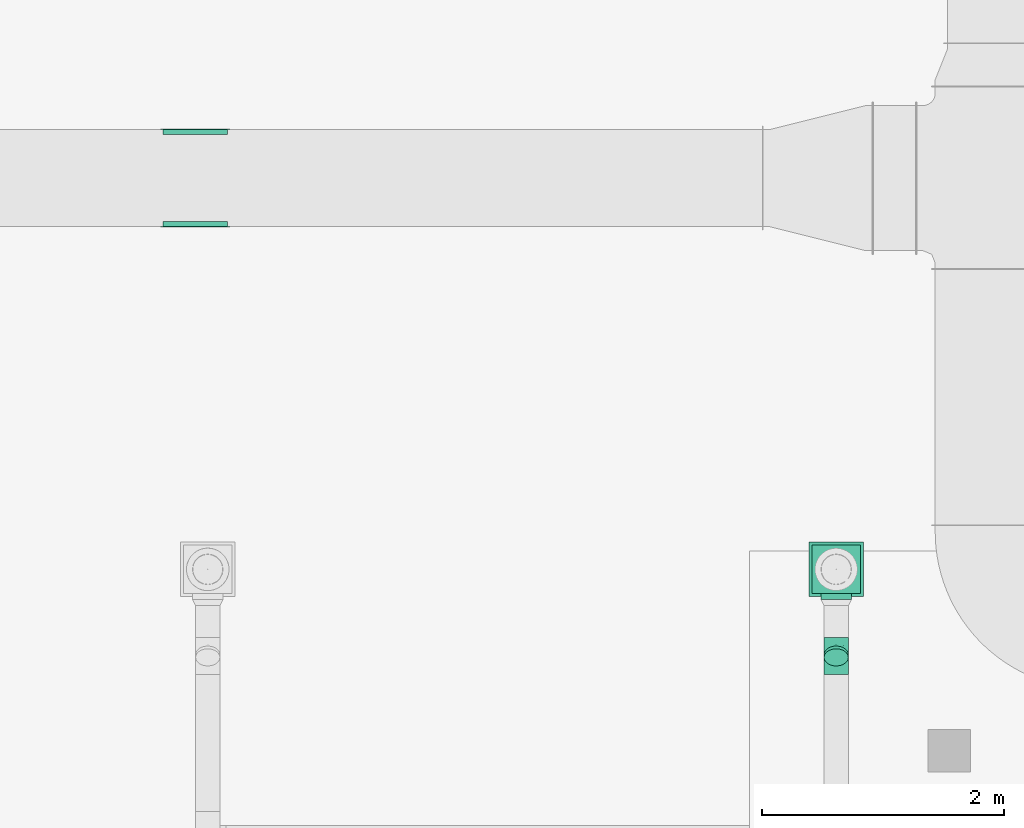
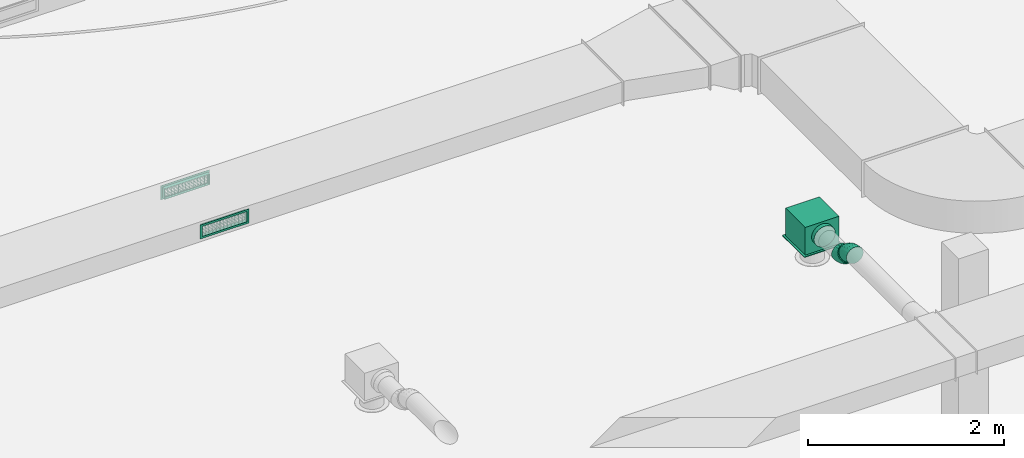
# One storey, part 264 of 302: 3 flow terminals, 2 flow fittings, 1 flow segment.
"""IFC2X3 building model written with IfcOpenShell, lengths in metres."""

from ifc_helpers import new_model, entity, si_unit, converted_unit, derived_unit, direction, frame, frame_2d, origin, origin_2d_with_axis, place, context, subcontext, project, spatial, polyline, circle_curve, parameter, trimmed, segment, composite_curve, rectangle, circle, outline, extrude, faceted_brep, source, transform, mapped, material, material_list, type_object, type_shapes, element, save


model = new_model("IFC2X3")

# Units and contexts
model_context = context("Model", 3, precision=1e-05, world=origin(), true_north=direction((6.12303176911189e-17, 1.0)))
body_context = subcontext(model_context, "Body", "Model", "MODEL_VIEW")
ifc_project = project(units=[si_unit("LENGTHUNIT", "METRE"), si_unit("AREAUNIT", "SQUARE_METRE"), si_unit("VOLUMEUNIT", "CUBIC_METRE"), converted_unit("PLANEANGLEUNIT", "DEGREE", entity("IfcRatioMeasure", 0.0174532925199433), si_unit("PLANEANGLEUNIT", "RADIAN"), dimensions=[0, 0, 0, 0, 0, 0, 0]), si_unit("MASSUNIT", "GRAM", prefix="KILO"), derived_unit("MASSDENSITYUNIT", [(si_unit("MASSUNIT", "GRAM", prefix="KILO"), 1), (si_unit("LENGTHUNIT", "METRE"), -3)]), derived_unit("MOMENTOFINERTIAUNIT", [(si_unit("LENGTHUNIT", "METRE"), 4)]), si_unit("TIMEUNIT", "SECOND"), si_unit("FREQUENCYUNIT", "HERTZ"), si_unit("THERMODYNAMICTEMPERATUREUNIT", "DEGREE_CELSIUS"), derived_unit("THERMALTRANSMITTANCEUNIT", [(si_unit("MASSUNIT", "GRAM", prefix="KILO"), 1), (si_unit("THERMODYNAMICTEMPERATUREUNIT", "KELVIN"), -1), (si_unit("TIMEUNIT", "SECOND"), -3)]), derived_unit("VOLUMETRICFLOWRATEUNIT", [(si_unit("LENGTHUNIT", "METRE"), 3), (si_unit("TIMEUNIT", "SECOND"), -1)]), si_unit("ELECTRICCURRENTUNIT", "AMPERE"), si_unit("ELECTRICVOLTAGEUNIT", "VOLT"), si_unit("POWERUNIT", "WATT"), si_unit("FORCEUNIT", "NEWTON", prefix="KILO"), si_unit("ILLUMINANCEUNIT", "LUX"), si_unit("LUMINOUSFLUXUNIT", "LUMEN"), si_unit("LUMINOUSINTENSITYUNIT", "CANDELA"), derived_unit("USERDEFINED", [(si_unit("MASSUNIT", "GRAM", prefix="KILO"), -1), (si_unit("LENGTHUNIT", "METRE"), -2), (si_unit("TIMEUNIT", "SECOND"), 3), (si_unit("LUMINOUSFLUXUNIT", "LUMEN"), 1)]), derived_unit("LINEARVELOCITYUNIT", [(si_unit("LENGTHUNIT", "METRE"), 1), (si_unit("TIMEUNIT", "SECOND"), -1)]), si_unit("PRESSUREUNIT", "PASCAL"), derived_unit("USERDEFINED", [(si_unit("LENGTHUNIT", "METRE"), -2), (si_unit("MASSUNIT", "GRAM", prefix="KILO"), 1), (si_unit("TIMEUNIT", "SECOND"), -2)]), derived_unit("LINEARFORCEUNIT", [(si_unit("MASSUNIT", "GRAM", prefix="KILO"), 1), (si_unit("LENGTHUNIT", "METRE"), 1), (si_unit("TIMEUNIT", "SECOND"), -2), (si_unit("LENGTHUNIT", "METRE"), -1)]), derived_unit("PLANARFORCEUNIT", [(si_unit("MASSUNIT", "GRAM", prefix="KILO"), 1), (si_unit("LENGTHUNIT", "METRE"), 1), (si_unit("TIMEUNIT", "SECOND"), -2), (si_unit("LENGTHUNIT", "METRE"), -2)])], contexts=[model_context])

# Site, building, storey
site_placement = place(None, origin())
site = spatial("IfcSite", under=ifc_project, at=site_placement, Name="Default", CompositionType="ELEMENT")
building_placement = place(site_placement, origin())
building = spatial("IfcBuilding", under=site, at=building_placement, CompositionType="ELEMENT")
storey_placement = place(building_placement, frame((0.0, 0.0, -1.3)))
storey = spatial("IfcBuildingStorey", under=building, at=storey_placement, Name="00_EG", CompositionType="ELEMENT", Elevation=-1.3)

# Flow segment
duct_segment_type = type_object("IfcDuctSegmentType", Name="Rund:STR_Segment_RND_GS_EA", PredefinedType="NOTDEFINED")
flow_segment_placement = place(storey_placement, origin())
element("IfcFlowSegment", 1, at=flow_segment_placement, inside=storey, type_object=duct_segment_type, Name="Rund:STR_Segment_RND_GS_EA", ObjectType="Rund:STR_Segment_RND_GS_EA", context=body_context, shape_type="SweptSolid", body=[
    extrude(circle(Radius=0.1, at=frame_2d((3.46517481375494e-14, -4.59428346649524e-15), x_axis=(1.0, 0.0))), frame((-247.869417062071, 24.218366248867, 5.06642126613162), z_axis=(0.0, 0.707106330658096, -0.707107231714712), x_axis=(-1.0, 0.0, 0.0)), (0.0, 0.0, 1.0), 0.0323041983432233),
])

# Flow terminal
ifc_material = material(Name="<Unnamed>")
ifc_material_list_1 = material_list([ifc_material, ifc_material, ifc_material])
air_terminal_type_1 = type_object("IfcAirTerminalType", Name="Drallauslass Zuluft seitlich:600 quadratisch", PredefinedType="NOTDEFINED", material=ifc_material_list_1)
shared_shape_1 = source(origin(), body_context, "Body", "SweptSolid", [
    extrude(rectangle(XDim=0.449999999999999, YDim=0.450000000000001, at=origin_2d_with_axis()), frame((0.0, 0.0, 2.692), z_axis=(0.0, 0.0, 1.0), x_axis=(-1.0, 0.0, 0.0)), (0.0, 0.0, 1.0), 0.00800000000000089),
    extrude(circle(Radius=0.125, at=frame_2d((1.22275294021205e-18, 0.0), x_axis=(1.0, 0.0))), frame((-0.25, 0.0, 2.89500000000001), z_axis=(1.0, 0.0, 0.0), x_axis=(0.0, 1.0, 0.0)), (0.0, 0.0, 1.0), 0.0499999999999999),
    extrude(rectangle(XDim=0.399999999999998, YDim=0.4, at=origin_2d_with_axis()), frame((0.0, 0.0, 2.7), z_axis=(0.0, 0.0, 1.0), x_axis=(-1.0, 0.0, 0.0)), (0.0, 0.0, 1.0), 0.345000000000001),
])
type_shapes(air_terminal_type_1, [shared_shape_1])
flow_terminal_placement = place(storey_placement, frame((-247.869417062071, 24.9455446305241, 2.08999999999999), z_axis=(0.0, 0.0, 1.0), x_axis=(0.0, 1.0, 0.0)))
element("IfcFlowTerminal", 2, at=flow_terminal_placement, inside=storey, type_object=air_terminal_type_1, material=ifc_material, Name="Drallauslass Zuluft seitlich:600 quadratisch", ObjectType="Drallauslass Zuluft seitlich:600 quadratisch", context=body_context, shape_type="MappedRepresentation", body=[
    mapped(shared_shape_1, transform((0.0, 0.0, 0.0), scale=1.0)),
])

# Flow fittings
duct_fitting_type = type_object("IfcDuctFittingType", Name="STR_RND_Elbow:STR_Elbow_RND_GS_EA", PredefinedType="NOTDEFINED", material=ifc_material)
shared_shape_2 = source(origin(), body_context, "Body", "Brep", [
    faceted_brep([(-0.0438246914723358, 0.00384295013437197, 0.0999999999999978), (-0.0498533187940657, 0.0341508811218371, 0.0951056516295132), (-0.0828427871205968, 0.0309016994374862, 0.0951056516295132), (-0.0828427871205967, 0.0, 0.0999999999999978), (-0.0552918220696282, 0.061492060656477, 0.0809016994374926), (-0.0828427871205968, 0.0587785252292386, 0.0809016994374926), (-0.0596078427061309, 0.0831901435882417, 0.0587785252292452), (-0.0828427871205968, 0.0809016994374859, 0.0587785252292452), (-0.0623788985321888, 0.097121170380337, 0.0309016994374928), (-0.0828427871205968, 0.0951056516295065, 0.0309016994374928), (-0.0633337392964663, 0.101921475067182, 0.0), (-0.0828427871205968, 0.0999999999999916, 0.0), (-0.0623788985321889, 0.0971211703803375, -0.030901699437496), (-0.0828427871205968, 0.095105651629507, -0.030901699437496), (-0.059607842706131, 0.0831901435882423, -0.0587785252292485), (-0.0828427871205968, 0.0809016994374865, -0.0587785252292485), (-0.0552918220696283, 0.0614920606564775, -0.0809016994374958), (-0.0828427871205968, 0.0587785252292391, -0.0809016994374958), (-0.0498533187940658, 0.0341508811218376, -0.0951056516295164), (-0.0828427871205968, 0.0309016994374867, -0.0951056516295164), (-0.043824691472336, 0.00384295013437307, -0.100000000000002), (-0.0828427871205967, 0.0, -0.100000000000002), (-0.037796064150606, -0.0264649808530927, -0.0951056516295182), (-0.0828427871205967, -0.0309016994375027, -0.0951056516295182), (-0.0323575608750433, -0.0538061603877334, -0.0809016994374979), (-0.0828427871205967, -0.0587785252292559, -0.0809016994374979), (-0.0280415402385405, -0.075504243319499, -0.0587785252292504), (-0.0828427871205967, -0.080901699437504, -0.0587785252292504), (-0.0252704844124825, -0.0894352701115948, -0.0309016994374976), (-0.0828427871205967, -0.0951056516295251, -0.0309016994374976), (-0.0243156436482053, -0.0942355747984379, 0.0), (-0.0828427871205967, -0.100000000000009, 0.0), (-0.0252704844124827, -0.0894352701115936, 0.0309016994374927), (-0.0828427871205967, -0.0951056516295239, 0.0309016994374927), (-0.0280415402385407, -0.0755042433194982, 0.0587785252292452), (-0.0828427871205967, -0.0809016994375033, 0.0587785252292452), (-0.0323575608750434, -0.0538061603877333, 0.0809016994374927), (-0.0828427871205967, -0.0587785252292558, 0.0809016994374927), (-0.0377960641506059, -0.0264649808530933, 0.0951056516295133), (-0.0828427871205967, -0.0309016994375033, 0.0951056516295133), (-0.00630604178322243, 0.0152241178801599, 0.0999999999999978), (-0.0181316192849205, 0.0437735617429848, 0.0951056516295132), (-0.028799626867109, 0.0695283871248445, 0.0809016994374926), (-0.037265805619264, 0.0899675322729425, 0.0587785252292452), (-0.0427014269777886, 0.103090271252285, 0.0309016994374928), (-0.0445744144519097, 0.107612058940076, 0.0), (-0.0427014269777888, 0.103090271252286, -0.030901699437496), (-0.0372658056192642, 0.089967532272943, -0.0587785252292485), (-0.0287996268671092, 0.069528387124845, -0.0809016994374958), (-0.0181316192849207, 0.0437735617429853, -0.0951056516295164), (-0.00630604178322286, 0.015224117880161, -0.100000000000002), (0.00551953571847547, -0.0133253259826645, -0.0951056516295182), (0.0161875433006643, -0.039080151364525, -0.0809016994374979), (0.0246537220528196, -0.0595192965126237, -0.0587785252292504), (0.0300893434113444, -0.0726420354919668, -0.0309016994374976), (0.0319623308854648, -0.077163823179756, 0.0), (0.0300893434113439, -0.0726420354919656, 0.0309016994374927), (0.0246537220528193, -0.059519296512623, 0.0587785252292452), (0.0161875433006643, -0.0390801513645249, 0.0809016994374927), (0.0055195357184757, -0.0133253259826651, 0.0951056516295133), (0.0282713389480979, 0.0337061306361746, 0.0999999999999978), (0.0111032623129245, 0.0593999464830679, 0.0951056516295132), (-0.00438428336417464, 0.0825786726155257, 0.0809016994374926), (-0.0166752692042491, 0.100973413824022, 0.0587785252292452), (-0.0245665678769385, 0.112783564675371, 0.0309016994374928), (-0.0272857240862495, 0.116853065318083, 0.0), (-0.0245665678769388, 0.112783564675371, -0.030901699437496), (-0.0166752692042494, 0.100973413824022, -0.0587785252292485), (-0.00438428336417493, 0.0825786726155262, -0.0809016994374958), (0.0111032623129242, 0.0593999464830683, -0.0951056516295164), (0.0282713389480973, 0.0337061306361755, -0.100000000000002), (0.0454394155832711, 0.00801231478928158, -0.0951056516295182), (0.0609269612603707, -0.0151664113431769, -0.0809016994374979), (0.0732179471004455, -0.0335611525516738, -0.0587785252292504), (0.0811092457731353, -0.0453713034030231, -0.0309016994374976), (0.0838284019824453, -0.049440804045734, 0.0), (0.0811092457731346, -0.0453713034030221, 0.0309016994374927), (0.0732179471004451, -0.0335611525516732, 0.0587785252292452), (0.0609269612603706, -0.0151664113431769, 0.0809016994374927), (0.0454394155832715, 0.00801231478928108, 0.0951056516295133), (0.0585786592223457, 0.0585787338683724, 0.0999999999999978), (0.0367278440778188, 0.0804295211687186, 0.0951056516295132), (0.0170159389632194, 0.10014140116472, 0.0809016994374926), (0.00137248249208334, 0.115784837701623, 0.0587785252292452), (-0.00867123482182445, 0.125828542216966, 0.0309016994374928), (-0.0121320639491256, 0.129289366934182, 0.0), (-0.00867123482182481, 0.125828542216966, -0.030901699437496), (0.00137248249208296, 0.115784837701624, -0.0587785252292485), (0.0170159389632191, 0.10014140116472, -0.0809016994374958), (0.0367278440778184, 0.080429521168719, -0.0951056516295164), (0.0585786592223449, 0.0585787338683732, -0.100000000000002), (0.0804294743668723, 0.0367279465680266, -0.0951056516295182), (0.100141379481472, 0.0170160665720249, -0.0809016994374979), (0.115784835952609, 0.00137263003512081, -0.0587785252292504), (0.125828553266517, -0.00867107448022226, -0.0309016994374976), (0.129289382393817, -0.0121318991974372, 0.0), (0.125828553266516, -0.00867107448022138, 0.0309016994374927), (0.115784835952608, 0.00137263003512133, 0.0587785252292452), (0.100141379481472, 0.017016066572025, 0.0809016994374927), (0.0804294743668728, 0.0367279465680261, 0.0951056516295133)], [[[0, 1, 2, 3]], [[1, 4, 5, 2]], [[4, 6, 7, 5]], [[6, 8, 9, 7]], [[8, 10, 11, 9]], [[10, 12, 13, 11]], [[12, 14, 15, 13]], [[14, 16, 17, 15]], [[16, 18, 19, 17]], [[18, 20, 21, 19]], [[20, 22, 23, 21]], [[22, 24, 25, 23]], [[24, 26, 27, 25]], [[26, 28, 29, 27]], [[28, 30, 31, 29]], [[30, 32, 33, 31]], [[32, 34, 35, 33]], [[34, 36, 37, 35]], [[36, 38, 39, 37]], [[38, 0, 3, 39]], [[40, 41, 1, 0]], [[41, 42, 4, 1]], [[42, 43, 6, 4]], [[43, 44, 8, 6]], [[44, 45, 10, 8]], [[45, 46, 12, 10]], [[46, 47, 14, 12]], [[47, 48, 16, 14]], [[48, 49, 18, 16]], [[49, 50, 20, 18]], [[50, 51, 22, 20]], [[51, 52, 24, 22]], [[52, 53, 26, 24]], [[53, 54, 28, 26]], [[54, 55, 30, 28]], [[55, 56, 32, 30]], [[56, 57, 34, 32]], [[57, 58, 36, 34]], [[58, 59, 38, 36]], [[59, 40, 0, 38]], [[60, 61, 41, 40]], [[61, 62, 42, 41]], [[62, 63, 43, 42]], [[63, 64, 44, 43]], [[64, 65, 45, 44]], [[65, 66, 46, 45]], [[66, 67, 47, 46]], [[67, 68, 48, 47]], [[68, 69, 49, 48]], [[69, 70, 50, 49]], [[70, 71, 51, 50]], [[71, 72, 52, 51]], [[72, 73, 53, 52]], [[73, 74, 54, 53]], [[74, 75, 55, 54]], [[75, 76, 56, 55]], [[76, 77, 57, 56]], [[77, 78, 58, 57]], [[78, 79, 59, 58]], [[79, 60, 40, 59]], [[80, 81, 61, 60]], [[81, 82, 62, 61]], [[82, 83, 63, 62]], [[83, 84, 64, 63]], [[84, 85, 65, 64]], [[85, 86, 66, 65]], [[86, 87, 67, 66]], [[87, 88, 68, 67]], [[88, 89, 69, 68]], [[89, 90, 70, 69]], [[90, 91, 71, 70]], [[91, 92, 72, 71]], [[92, 93, 73, 72]], [[93, 94, 74, 73]], [[94, 95, 75, 74]], [[95, 96, 76, 75]], [[96, 97, 77, 76]], [[97, 98, 78, 77]], [[98, 99, 79, 78]], [[99, 80, 60, 79]], [[3, 2, 5, 7, 9, 11, 13, 15, 17, 19, 21, 23, 25, 27, 29, 31, 33, 35, 37, 39]], [[99, 98, 97, 96, 95, 94, 93, 92, 91, 90, 89, 88, 87, 86, 85, 84, 83, 82, 81, 80]]]),
])
type_shapes(duct_fitting_type, [shared_shape_2])
for number, where, z_axis, x_axis in (
    (3, (-247.869417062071, 24.2997874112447, 4.98500000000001), (-1.0, 0.0, 0.0), (0.0, -1.0, 0.0)),
    (4, (-247.869417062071, 24.1597875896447, 5.12499999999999), (1.0, 0.0, 0.0), (0.0, -0.707106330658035, 0.707107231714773)),
):
    element("IfcFlowFitting", number, at=place(storey_placement, frame(where, z_axis=z_axis, x_axis=x_axis)), inside=storey, type_object=duct_fitting_type, material=ifc_material, Name="STR_RND_Elbow:STR_Elbow_RND_GS_EA", ObjectType="STR_RND_Elbow:STR_Elbow_RND_GS_EA", context=body_context, shape_type="MappedRepresentation", body=[
        mapped(shared_shape_2, transform((0.0, 0.0, 0.0), scale=1.0)),
    ])

# Flow terminals
ifc_material_list_2 = material_list([ifc_material, ifc_material, ifc_material, ifc_material, ifc_material, ifc_material, ifc_material, ifc_material, ifc_material, ifc_material, ifc_material, ifc_material, ifc_material, ifc_material, ifc_material, ifc_material, ifc_material, ifc_material, ifc_material])
air_terminal_type_2 = type_object("IfcAirTerminalType", Name="Kanallüftungsgitter Abluft:525 x 125", PredefinedType="NOTDEFINED", material=ifc_material_list_2)
shared_shape_3 = source(origin(), body_context, "Body", "SweptSolid", [
    extrude(outline(composite_curve([segment(polyline([(-0.00289554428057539, -0.00148147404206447), (0.00423714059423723, -0.00148147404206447)]), True, "CONTINUOUS"), segment(polyline([(0.00423714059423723, -0.00148147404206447), (-0.00134159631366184, 0.00296294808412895)]), True, "CONTINUOUS"), segment(trimmed(circle_curve(frame_2d((-0.00255940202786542, 0.000894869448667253), x_axis=(0.330047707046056, 0.943964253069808)), 0.0024), [parameter(348.779604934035)], [parameter(191.220395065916)], True, "PARAMETER"), True, "CONTINUOUS")], self_intersect=False)), frame((-0.0293780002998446, -0.2625, 0.0446428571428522), z_axis=(0.0, 1.0, 0.0), x_axis=(-0.943964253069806, 0.0, 0.330047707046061)), (0.0, 0.0, 1.0), 0.525),
    extrude(outline(composite_curve([segment(polyline([(-0.00289554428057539, -0.00148147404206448), (0.00423714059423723, -0.00148147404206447)]), True, "CONTINUOUS"), segment(polyline([(0.00423714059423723, -0.00148147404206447), (-0.00134159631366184, 0.00296294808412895)]), True, "CONTINUOUS"), segment(trimmed(circle_curve(frame_2d((-0.00255940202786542, 0.000894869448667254), x_axis=(0.330047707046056, 0.943964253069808)), 0.0024), [parameter(348.779604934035)], [parameter(191.220395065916)], True, "PARAMETER"), True, "CONTINUOUS")], self_intersect=False)), frame((-0.0293780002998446, -0.2625, 0.0267857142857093), z_axis=(0.0, 1.0, 0.0), x_axis=(-0.943964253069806, 0.0, 0.330047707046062)), (0.0, 0.0, 1.0), 0.525),
    extrude(outline(composite_curve([segment(polyline([(-0.00289554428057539, -0.00148147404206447), (0.00423714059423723, -0.00148147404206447)]), True, "CONTINUOUS"), segment(polyline([(0.00423714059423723, -0.00148147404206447), (-0.00134159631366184, 0.00296294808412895)]), True, "CONTINUOUS"), segment(trimmed(circle_curve(frame_2d((-0.00255940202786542, 0.000894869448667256), x_axis=(0.330047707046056, 0.943964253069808)), 0.0024), [parameter(348.779604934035)], [parameter(191.220395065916)], True, "PARAMETER"), True, "CONTINUOUS")], self_intersect=False)), frame((-0.0293780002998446, -0.2625, 0.00892857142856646), z_axis=(0.0, 1.0, 0.0), x_axis=(-0.943964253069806, 0.0, 0.330047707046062)), (0.0, 0.0, 1.0), 0.525),
    extrude(outline(composite_curve([segment(polyline([(-0.00289554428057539, -0.00148147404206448), (0.00423714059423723, -0.00148147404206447)]), True, "CONTINUOUS"), segment(polyline([(0.00423714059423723, -0.00148147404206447), (-0.00134159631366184, 0.00296294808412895)]), True, "CONTINUOUS"), segment(trimmed(circle_curve(frame_2d((-0.00255940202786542, 0.000894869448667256), x_axis=(0.330047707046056, 0.943964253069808)), 0.0024), [parameter(348.779604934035)], [parameter(191.220395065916)], True, "PARAMETER"), True, "CONTINUOUS")], self_intersect=False)), frame((-0.0293780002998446, -0.2625, -0.00892857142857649), z_axis=(0.0, 1.0, 0.0), x_axis=(-0.943964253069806, 0.0, 0.330047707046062)), (0.0, 0.0, 1.0), 0.525),
    extrude(outline(composite_curve([segment(polyline([(-0.00289554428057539, -0.00148147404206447), (0.00423714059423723, -0.00148147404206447)]), True, "CONTINUOUS"), segment(polyline([(0.00423714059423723, -0.00148147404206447), (-0.00134159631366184, 0.00296294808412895)]), True, "CONTINUOUS"), segment(trimmed(circle_curve(frame_2d((-0.00255940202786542, 0.000894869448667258), x_axis=(0.330047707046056, 0.943964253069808)), 0.0024), [parameter(348.779604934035)], [parameter(191.220395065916)], True, "PARAMETER"), True, "CONTINUOUS")], self_intersect=False)), frame((-0.0293780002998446, -0.2625, -0.0267857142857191), z_axis=(0.0, 1.0, 0.0), x_axis=(-0.943964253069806, 0.0, 0.330047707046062)), (0.0, 0.0, 1.0), 0.525),
    extrude(outline(composite_curve([segment(polyline([(-0.00289554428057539, -0.00148147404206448), (0.00423714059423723, -0.00148147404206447)]), True, "CONTINUOUS"), segment(polyline([(0.00423714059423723, -0.00148147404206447), (-0.00134159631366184, 0.00296294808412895)]), True, "CONTINUOUS"), segment(trimmed(circle_curve(frame_2d((-0.00255940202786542, 0.000894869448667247), x_axis=(0.330047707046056, 0.943964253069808)), 0.0024), [parameter(348.779604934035)], [parameter(191.220395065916)], True, "PARAMETER"), True, "CONTINUOUS")], self_intersect=False)), frame((-0.0293780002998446, -0.2625, -0.0446428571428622), z_axis=(0.0, 1.0, 0.0), x_axis=(-0.943964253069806, 0.0, 0.330047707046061)), (0.0, 0.0, 1.0), 0.525),
    extrude(outline(composite_curve([segment(trimmed(circle_curve(frame_2d((0.0, -0.00271133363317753), x_axis=(1.0, 0.0)), 0.0024), [parameter(168.779604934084)], [parameter(11.2203950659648)], True, "PARAMETER"), True, "CONTINUOUS"), segment(polyline([(0.00235412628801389, -0.00224433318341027), (0.0, 0.00448866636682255)]), True, "CONTINUOUS"), segment(polyline([(0.0, 0.00448866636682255), (-0.00235412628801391, -0.00224433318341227)]), True, "CONTINUOUS")], self_intersect=False)), frame((-0.0160446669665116, 0.218750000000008, -0.0625), z_axis=(0.0, 0.0, 1.0), x_axis=(0.0, 1.0, 0.0)), (0.0, 0.0, 1.0), 0.125),
    extrude(outline(composite_curve([segment(trimmed(circle_curve(frame_2d((0.0, -0.00271133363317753), x_axis=(1.0, 0.0)), 0.0024), [parameter(168.779604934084)], [parameter(11.2203950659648)], True, "PARAMETER"), True, "CONTINUOUS"), segment(polyline([(0.00235412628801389, -0.00224433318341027), (0.0, 0.00448866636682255)]), True, "CONTINUOUS"), segment(polyline([(0.0, 0.00448866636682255), (-0.00235412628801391, -0.00224433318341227)]), True, "CONTINUOUS")], self_intersect=False)), frame((-0.0160446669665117, 0.175000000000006, -0.0625), z_axis=(0.0, 0.0, 1.0), x_axis=(0.0, 1.0, 0.0)), (0.0, 0.0, 1.0), 0.125),
    extrude(outline(composite_curve([segment(trimmed(circle_curve(frame_2d((0.0, -0.00271133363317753), x_axis=(1.0, 0.0)), 0.0024), [parameter(168.779604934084)], [parameter(11.2203950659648)], True, "PARAMETER"), True, "CONTINUOUS"), segment(polyline([(0.00235412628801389, -0.00224433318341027), (0.0, 0.00448866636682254)]), True, "CONTINUOUS"), segment(polyline([(0.0, 0.00448866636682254), (-0.00235412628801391, -0.00224433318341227)]), True, "CONTINUOUS")], self_intersect=False)), frame((-0.0160446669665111, 0.131250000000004, -0.0625), z_axis=(0.0, 0.0, 1.0), x_axis=(0.0, 1.0, 0.0)), (0.0, 0.0, 1.0), 0.125),
    extrude(outline(composite_curve([segment(trimmed(circle_curve(frame_2d((0.0, -0.00271133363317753), x_axis=(1.0, 0.0)), 0.0024), [parameter(168.779604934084)], [parameter(11.2203950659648)], True, "PARAMETER"), True, "CONTINUOUS"), segment(polyline([(0.00235412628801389, -0.00224433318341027), (0.0, 0.00448866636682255)]), True, "CONTINUOUS"), segment(polyline([(0.0, 0.00448866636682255), (-0.0023541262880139, -0.00224433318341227)]), True, "CONTINUOUS")], self_intersect=False)), frame((-0.0160446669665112, 0.0875000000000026, -0.0624999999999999), z_axis=(0.0, 0.0, 1.0), x_axis=(0.0, 1.0, 0.0)), (0.0, 0.0, 1.0), 0.125),
    extrude(outline(composite_curve([segment(trimmed(circle_curve(frame_2d((0.0, -0.00271133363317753), x_axis=(1.0, 0.0)), 0.0024), [parameter(168.779604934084)], [parameter(11.2203950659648)], True, "PARAMETER"), True, "CONTINUOUS"), segment(polyline([(0.00235412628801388, -0.00224433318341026), (0.0, 0.00448866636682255)]), True, "CONTINUOUS"), segment(polyline([(0.0, 0.00448866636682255), (-0.00235412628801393, -0.00224433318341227)]), True, "CONTINUOUS")], self_intersect=False)), frame((-0.0160446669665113, 0.0437500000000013, -0.0624999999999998), z_axis=(0.0, 0.0, 1.0), x_axis=(0.0, 1.0, 0.0)), (0.0, 0.0, 1.0), 0.125),
    extrude(outline(composite_curve([segment(trimmed(circle_curve(frame_2d((0.0, -0.00271133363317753), x_axis=(1.0, 0.0)), 0.0024), [parameter(168.779604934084)], [parameter(11.2203950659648)], True, "PARAMETER"), True, "CONTINUOUS"), segment(polyline([(0.00235412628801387, -0.00224433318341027), (0.0, 0.00448866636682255)]), True, "CONTINUOUS"), segment(polyline([(0.0, 0.00448866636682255), (-0.00235412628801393, -0.00224433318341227)]), True, "CONTINUOUS")], self_intersect=False)), frame((-0.0160446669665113, 0.0, -0.0624999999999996), z_axis=(0.0, 0.0, 1.0), x_axis=(0.0, 1.0, 0.0)), (0.0, 0.0, 1.0), 0.125),
    extrude(outline(composite_curve([segment(trimmed(circle_curve(frame_2d((0.0, -0.00271133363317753), x_axis=(1.0, 0.0)), 0.0024), [parameter(168.779604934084)], [parameter(11.2203950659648)], True, "PARAMETER"), True, "CONTINUOUS"), segment(polyline([(0.00235412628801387, -0.00224433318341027), (0.0, 0.00448866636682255)]), True, "CONTINUOUS"), segment(polyline([(0.0, 0.00448866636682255), (-0.00235412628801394, -0.00224433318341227)]), True, "CONTINUOUS")], self_intersect=False)), frame((-0.0160446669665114, -0.0437499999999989, -0.0624999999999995), z_axis=(0.0, 0.0, 1.0), x_axis=(0.0, 1.0, 0.0)), (0.0, 0.0, 1.0), 0.125),
    extrude(outline(composite_curve([segment(trimmed(circle_curve(frame_2d((0.0, -0.00271133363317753), x_axis=(1.0, 0.0)), 0.0024), [parameter(168.779604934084)], [parameter(11.2203950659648)], True, "PARAMETER"), True, "CONTINUOUS"), segment(polyline([(0.00235412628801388, -0.00224433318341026), (0.0, 0.00448866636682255)]), True, "CONTINUOUS"), segment(polyline([(0.0, 0.00448866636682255), (-0.00235412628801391, -0.00224433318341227)]), True, "CONTINUOUS")], self_intersect=False)), frame((-0.0160446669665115, -0.0874999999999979, -0.0624999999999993), z_axis=(0.0, 0.0, 1.0), x_axis=(0.0, 1.0, 0.0)), (0.0, 0.0, 1.0), 0.125),
    extrude(outline(composite_curve([segment(trimmed(circle_curve(frame_2d((0.0, -0.00271133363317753), x_axis=(1.0, 0.0)), 0.0024), [parameter(168.779604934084)], [parameter(11.2203950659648)], True, "PARAMETER"), True, "CONTINUOUS"), segment(polyline([(0.00235412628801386, -0.00224433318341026), (0.0, 0.00448866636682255)]), True, "CONTINUOUS"), segment(polyline([(0.0, 0.00448866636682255), (-0.00235412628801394, -0.00224433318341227)]), True, "CONTINUOUS")], self_intersect=False)), frame((-0.0160446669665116, -0.131249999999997, -0.0624999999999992), z_axis=(0.0, 0.0, 1.0), x_axis=(0.0, 1.0, 0.0)), (0.0, 0.0, 1.0), 0.125),
    extrude(outline(composite_curve([segment(trimmed(circle_curve(frame_2d((0.0, -0.00271133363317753), x_axis=(1.0, 0.0)), 0.0024), [parameter(168.779604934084)], [parameter(11.2203950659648)], True, "PARAMETER"), True, "CONTINUOUS"), segment(polyline([(0.00235412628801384, -0.00224433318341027), (0.0, 0.00448866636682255)]), True, "CONTINUOUS"), segment(polyline([(0.0, 0.00448866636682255), (-0.00235412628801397, -0.00224433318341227)]), True, "CONTINUOUS")], self_intersect=False)), frame((-0.0160446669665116, -0.174999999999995, -0.062499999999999), z_axis=(0.0, 0.0, 1.0), x_axis=(0.0, 1.0, 0.0)), (0.0, 0.0, 1.0), 0.125),
    extrude(outline(composite_curve([segment(trimmed(circle_curve(frame_2d((0.0, -0.00271133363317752), x_axis=(1.0, 0.0)), 0.0024), [parameter(168.779604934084)], [parameter(11.2203950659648)], True, "PARAMETER"), True, "CONTINUOUS"), segment(polyline([(0.00235412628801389, -0.00224433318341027), (0.0, 0.00448866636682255)]), True, "CONTINUOUS"), segment(polyline([(0.0, 0.00448866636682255), (-0.00235412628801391, -0.00224433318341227)]), True, "CONTINUOUS")], self_intersect=False)), frame((-0.0160446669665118, -0.218749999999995, -0.0624999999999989), z_axis=(0.0, 0.0, 1.0), x_axis=(0.0, 1.0, 0.0)), (0.0, 0.0, 1.0), 0.125),
    extrude(outline(polyline([(-0.0665, -0.2665), (0.0665, -0.2665), (0.0665, 0.2665), (-0.0665, 0.2665), (-0.0665, -0.2665)]), holes=[polyline([(-0.0625000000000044, -0.2625), (-0.0625000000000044, 0.262499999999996), (0.062500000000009, 0.262499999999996), (0.062500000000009, -0.2625), (-0.0625000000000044, -0.2625)])]), frame((-0.04, 0.0, 0.0), z_axis=(1.0, 0.0, 0.0), x_axis=(0.0, 0.0, -1.0)), (0.0, 0.0, 1.0), 0.04),
    extrude(outline(polyline([(-0.0875, -0.2875), (0.0875, -0.2875), (0.0875, 0.2875), (-0.0875, 0.2875), (-0.0875, -0.2875)]), holes=[polyline([(-0.0625, -0.262499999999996), (-0.0625, 0.262500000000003), (0.0625000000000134, 0.262500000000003), (0.0625000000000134, -0.262499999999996), (-0.0625, -0.262499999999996)])]), frame((0.0, 0.0, 0.0), z_axis=(1.0, 0.0, 0.0), x_axis=(0.0, 0.0, -1.0)), (0.0, 0.0, 1.0), 0.005),
])
type_shapes(air_terminal_type_2, [shared_shape_3])
for number, where, z_axis, x_axis, name in (
    (5, (-253.164638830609, 28.5787086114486, 5.12499999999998), (0.0, 0.0, -1.0), (0.0, 1.0, 0.0), "Kanallüftungsgitter Abluft:525 x 125"),
    (6, (-253.164638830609, 27.7787086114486, 5.12499999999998), (0.0, 0.0, 1.0), (0.0, -1.0, 0.0), "Kanallüftungsgitter Abluft:525 x 125"),
):
    element("IfcFlowTerminal", number, at=place(storey_placement, frame(where, z_axis=z_axis, x_axis=x_axis)), inside=storey, type_object=air_terminal_type_2, material=ifc_material, Name=name, ObjectType="Kanallüftungsgitter Abluft:525 x 125", context=body_context, shape_type="MappedRepresentation", body=[
        mapped(shared_shape_3, transform((0.0, 0.0, 0.0), scale=1.0)),
    ])

save(model, "model.ifc")
